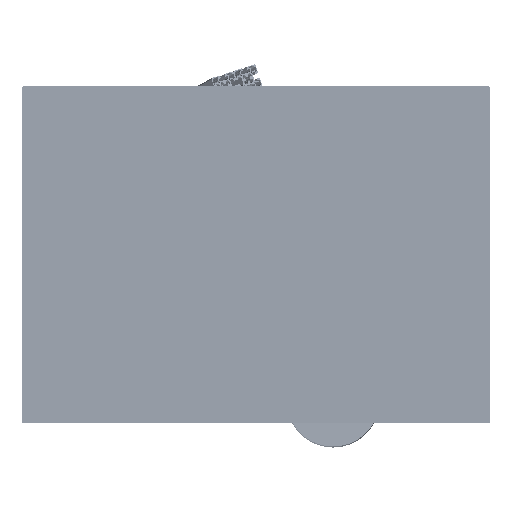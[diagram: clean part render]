
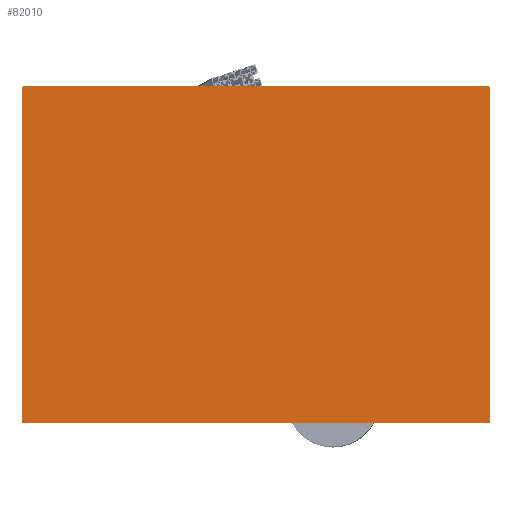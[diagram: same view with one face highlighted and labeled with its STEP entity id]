
A CAD part, front view. The second image highlights one B-rep face of the part: STEP entity #82010.
In plain terms, the highlighted planar face has unit normal (0, -1, 0).
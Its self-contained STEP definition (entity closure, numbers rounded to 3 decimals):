
#1444 = DIRECTION ( 'NONE',  ( 0., 0., -1. ) ) ;
#2563 = CARTESIAN_POINT ( 'NONE',  ( 162., 0., -2. ) ) ;
#3398 = LINE ( 'NONE', #107414, #14668 ) ;
#5850 = VECTOR ( 'NONE', #56745, 1000. ) ;
#6384 = DIRECTION ( 'NONE',  ( 0., 0., -1. ) ) ;
#6449 = EDGE_CURVE ( 'NONE', #107234, #125879, #3398, .T. ) ;
#8801 = ORIENTED_EDGE ( 'NONE', *, *, #89635, .F. ) ;
#11801 = CARTESIAN_POINT ( 'NONE',  ( 162., 0., -358. ) ) ;
#14668 = VECTOR ( 'NONE', #6384, 1000. ) ;
#15930 = CARTESIAN_POINT ( 'NONE',  ( 660., 0., -358. ) ) ;
#18651 = CARTESIAN_POINT ( 'NONE',  ( 162., 0., -360. ) ) ;
#19214 = DIRECTION ( 'NONE',  ( 0., 1., 0. ) ) ;
#21511 = EDGE_LOOP ( 'NONE', ( #30410, #8801, #131671, #103012, #123613, #104225, #96275, #64116 ) ) ;
#22356 = VECTOR ( 'NONE', #89683, 1000. ) ;
#24256 = DIRECTION ( 'NONE',  ( 0., 0., -1. ) ) ;
#25968 = CIRCLE ( 'NONE', #119271, 2. ) ;
#26822 = CARTESIAN_POINT ( 'NONE',  ( 160., 0., -358. ) ) ;
#28765 = CARTESIAN_POINT ( 'NONE',  ( 658., 0., -360. ) ) ;
#30410 = ORIENTED_EDGE ( 'NONE', *, *, #116233, .F. ) ;
#31324 = DIRECTION ( 'NONE',  ( 0., 1., 0. ) ) ;
#31848 = LINE ( 'NONE', #47673, #5850 ) ;
#33778 = CIRCLE ( 'NONE', #105403, 2. ) ;
#34235 = PLANE ( 'NONE',  #108608 ) ;
#36328 = VERTEX_POINT ( 'NONE', #99017 ) ;
#38780 = CARTESIAN_POINT ( 'NONE',  ( 660., 0., -2. ) ) ;
#38918 = CARTESIAN_POINT ( 'NONE',  ( 658., 0., 0. ) ) ;
#40570 = DIRECTION ( 'NONE',  ( 0., 1., 0. ) ) ;
#46753 = AXIS2_PLACEMENT_3D ( 'NONE', #81367, #19214, #90805 ) ;
#47673 = CARTESIAN_POINT ( 'NONE',  ( 162., 0., 0. ) ) ;
#47862 = CARTESIAN_POINT ( 'NONE',  ( 160., 0., -2. ) ) ;
#54616 = AXIS2_PLACEMENT_3D ( 'NONE', #122154, #40570, #59110 ) ;
#55525 = VERTEX_POINT ( 'NONE', #28765 ) ;
#56745 = DIRECTION ( 'NONE',  ( 1., 0., 0. ) ) ;
#59110 = DIRECTION ( 'NONE',  ( 0., 0., 1. ) ) ;
#64116 = ORIENTED_EDGE ( 'NONE', *, *, #119811, .F. ) ;
#65675 = DIRECTION ( 'NONE',  ( 0., 1., 0. ) ) ;
#66317 = VERTEX_POINT ( 'NONE', #38918 ) ;
#67075 = LINE ( 'NONE', #18651, #133064 ) ;
#76029 = DIRECTION ( 'NONE',  ( 0., 0., -1. ) ) ;
#77020 = EDGE_CURVE ( 'NONE', #125879, #55525, #25968, .T. ) ;
#77678 = CIRCLE ( 'NONE', #54616, 2. ) ;
#78439 = FACE_OUTER_BOUND ( 'NONE', #21511, .T. ) ;
#79503 = DIRECTION ( 'NONE',  ( -1., 0., 0. ) ) ;
#81367 = CARTESIAN_POINT ( 'NONE',  ( 162., 0., -2. ) ) ;
#81532 = CARTESIAN_POINT ( 'NONE',  ( 162., 0., -360. ) ) ;
#82010 = ADVANCED_FACE ( 'NONE', ( #78439 ), #34235, .T. ) ;
#89260 = EDGE_CURVE ( 'NONE', #110450, #106664, #33778, .T. ) ;
#89635 = EDGE_CURVE ( 'NONE', #106664, #131493, #133520, .T. ) ;
#89683 = DIRECTION ( 'NONE',  ( 0., 0., 1. ) ) ;
#90805 = DIRECTION ( 'NONE',  ( 0., 0., -1. ) ) ;
#96275 = ORIENTED_EDGE ( 'NONE', *, *, #104684, .F. ) ;
#98452 = CARTESIAN_POINT ( 'NONE',  ( 658., 0., -358. ) ) ;
#99017 = CARTESIAN_POINT ( 'NONE',  ( 162., 0., 0. ) ) ;
#100404 = CIRCLE ( 'NONE', #46753, 2. ) ;
#103012 = ORIENTED_EDGE ( 'NONE', *, *, #133099, .F. ) ;
#104225 = ORIENTED_EDGE ( 'NONE', *, *, #6449, .F. ) ;
#104684 = EDGE_CURVE ( 'NONE', #66317, #107234, #77678, .T. ) ;
#105403 = AXIS2_PLACEMENT_3D ( 'NONE', #11801, #31324, #1444 ) ;
#106664 = VERTEX_POINT ( 'NONE', #26822 ) ;
#107234 = VERTEX_POINT ( 'NONE', #38780 ) ;
#107414 = CARTESIAN_POINT ( 'NONE',  ( 660., 0., -2. ) ) ;
#108608 = AXIS2_PLACEMENT_3D ( 'NONE', #2563, #127012, #24256 ) ;
#110450 = VERTEX_POINT ( 'NONE', #81532 ) ;
#111455 = CARTESIAN_POINT ( 'NONE',  ( 160., 0., -2. ) ) ;
#116233 = EDGE_CURVE ( 'NONE', #131493, #36328, #100404, .T. ) ;
#119271 = AXIS2_PLACEMENT_3D ( 'NONE', #98452, #65675, #76029 ) ;
#119811 = EDGE_CURVE ( 'NONE', #36328, #66317, #31848, .T. ) ;
#122154 = CARTESIAN_POINT ( 'NONE',  ( 658., 0., -2. ) ) ;
#123613 = ORIENTED_EDGE ( 'NONE', *, *, #77020, .F. ) ;
#125879 = VERTEX_POINT ( 'NONE', #15930 ) ;
#127012 = DIRECTION ( 'NONE',  ( 0., -1., 0. ) ) ;
#131493 = VERTEX_POINT ( 'NONE', #111455 ) ;
#131671 = ORIENTED_EDGE ( 'NONE', *, *, #89260, .F. ) ;
#133064 = VECTOR ( 'NONE', #79503, 1000. ) ;
#133099 = EDGE_CURVE ( 'NONE', #55525, #110450, #67075, .T. ) ;
#133520 = LINE ( 'NONE', #47862, #22356 ) ;
